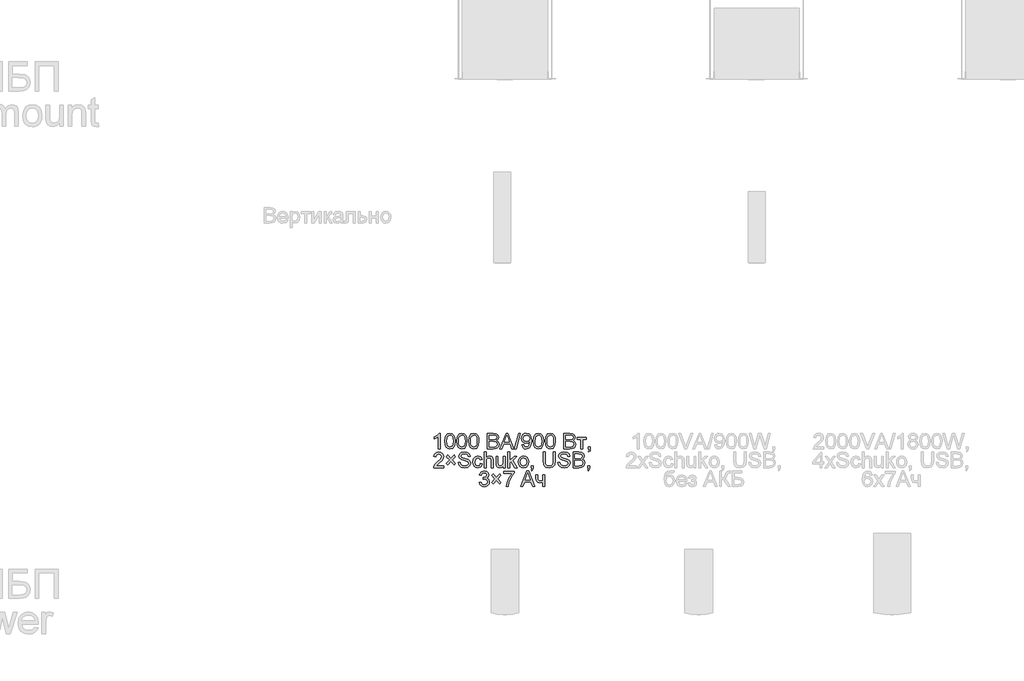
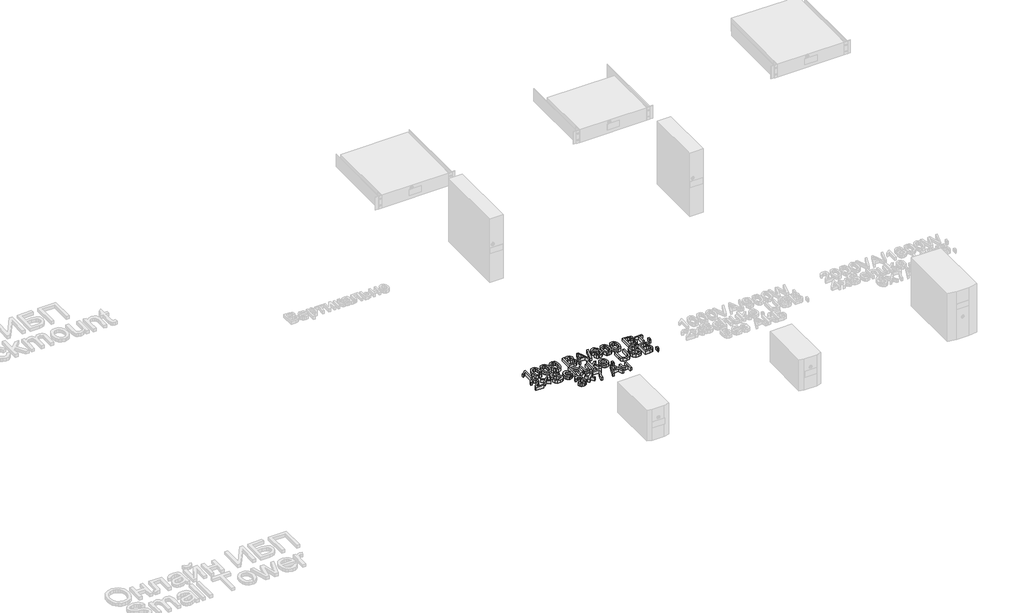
# One storey, part 55 of 74: 1 proxy.
"""IFC4 building model written with IfcOpenShell, lengths in millimetres."""

from ifc_helpers import new_model, si_unit, origin, origin_with_axes, place, context, project, spatial, polyline, outline, extrude, element, save

model = new_model("IFC4")

# Units and contexts
model_context = context("Model", 3, world=origin())
ifc_project = project(units=[si_unit("LENGTHUNIT", "METRE", prefix="MILLI")], contexts=[model_context])

# Site, building, storey
site = spatial("IfcSite", under=ifc_project)
building = spatial("IfcBuilding", under=site)
storey = spatial("IfcBuildingStorey", under=building, Name="Этаж 01", Elevation=0.0)

# Proxy
placement = place(None, origin())
element("IfcBuildingElementProxy", 1, Name="80 мм Arial", ObjectType="80 мм Arial", at=placement, inside=storey, context=model_context, shape_type="SweptSolid", body=[
    extrude(outline(polyline([(1017.7661692, -737.6348585), (1007.7205382, -737.6348585), (1007.7205382, -675.0066276), (998.2046572, -681.7854665), (987.6292761, -686.857333), (987.6292761, -677.3610724), (1002.3543661, -667.9629137), (1011.2914461, -657.2698104), (1017.7661692, -657.2698104), (1017.7661692, -737.6348585)])), origin_with_axes(), (0.0, 0.0, 1.0), 20.0),
    extrude(outline(polyline([(1041.6245428, -698.0998067), (1044.577409, -674.9771971), (1053.3477158, -661.6451535), (1067.9943243, -657.2698104), (1079.7273074, -659.8596996), (1087.8305214, -667.3252516), (1092.539411, -679.2151976), (1094.3641057, -698.0998067), (1091.4406701, -721.1243145), (1082.6997939, -734.4857886), (1067.9943243, -738.8905623), (1057.5562858, -736.977576), (1049.6296551, -731.2386168), (1043.6258209, -717.6466034), (1041.6245428, -698.0998067)]), holes=[polyline([(1051.6701739, -698.0801864), (1052.8473962, -713.8819443), (1056.3790634, -723.0274907), (1067.9943243, -728.8449313), (1079.6095851, -723.0078703), (1083.1412523, -713.8574189), (1084.3184747, -698.0801864), (1083.180493, -682.6340476), (1079.7665481, -673.4173774), (1074.5180983, -668.8409254), (1067.876602, -667.3154414), (1056.5360264, -672.6914236), (1052.886637, -682.4819898), (1051.6701739, -698.0801864)])]), origin_with_axes(), (0.0, 0.0, 1.0), 20.0),
    extrude(outline(polyline([(1103.1540328, -698.0998067), (1106.106899, -674.9771971), (1114.8772057, -661.6451535), (1129.5238142, -657.2698104), (1141.2567973, -659.8596996), (1149.3600114, -667.3252516), (1154.0689009, -679.2151976), (1155.8935956, -698.0998067), (1152.97016, -721.1243145), (1144.2292838, -734.4857886), (1129.5238142, -738.8905623), (1119.0857757, -736.977576), (1111.159145, -731.2386168), (1105.1553109, -717.6466034), (1103.1540328, -698.0998067)]), holes=[polyline([(1113.1996638, -698.0801864), (1114.3768862, -713.8819443), (1117.9085534, -723.0274907), (1129.5238142, -728.8449313), (1141.1390751, -723.0078703), (1144.6707422, -713.8574189), (1145.8479646, -698.0801864), (1144.709983, -682.6340476), (1141.2960381, -673.4173774), (1136.0475883, -668.8409254), (1129.406092, -667.3154414), (1118.0655163, -672.6914236), (1114.4161269, -682.4819898), (1113.1996638, -698.0801864)])]), origin_with_axes(), (0.0, 0.0, 1.0), 20.0),
    extrude(outline(polyline([(1164.6835228, -698.0998067), (1167.6363889, -674.9771971), (1176.4066957, -661.6451535), (1191.0533042, -657.2698104), (1202.7862873, -659.8596996), (1210.8895014, -667.3252516), (1215.5983909, -679.2151976), (1217.4230856, -698.0998067), (1214.49965, -721.1243145), (1205.7587738, -734.4857886), (1191.0533042, -738.8905623), (1180.6152657, -736.977576), (1172.688635, -731.2386168), (1166.6848008, -717.6466034), (1164.6835228, -698.0998067)]), holes=[polyline([(1174.7291538, -698.0801864), (1175.9063762, -713.8819443), (1179.4380433, -723.0274907), (1191.0533042, -728.8449313), (1202.668565, -723.0078703), (1206.2002322, -713.8574189), (1207.3774546, -698.0801864), (1206.2394729, -682.6340476), (1202.825528, -673.4173774), (1197.5770782, -668.8409254), (1190.9355819, -667.3154414), (1179.5950063, -672.6914236), (1175.9456169, -682.4819898), (1174.7291538, -698.0801864)])]), origin_with_axes(), (0.0, 0.0, 1.0), 20.0),
    extrude(outline(polyline([(1261.3727213, -737.6348585), (1261.3727213, -657.2698104), (1292.0393644, -657.2698104), (1307.05876, -659.6340653), (1315.9271686, -666.9034135), (1319.1350996, -677.184489), (1316.4372983, -686.5728375), (1308.2850333, -693.6852228), (1318.1835115, -701.1802053), (1321.6465074, -713.6783829), (1319.2822524, -724.4793983), (1313.4255711, -732.1705846), (1304.6846949, -736.2516222), (1291.8039199, -737.6348585), (1261.3727213, -737.6348585)]), holes=[polyline([(1271.4183523, -689.9181112), (1289.7634011, -689.9181112), (1300.4761248, -689.0548147), (1306.9214174, -685.336754), (1309.0894686, -678.7933596), (1307.0685702, -672.240155), (1301.2805601, -668.3651313), (1288.3703546, -667.3154414), (1271.4183523, -667.3154414), (1271.4183523, -689.9181112)]), polyline([(1271.4183523, -727.5892275), (1292.019744, -727.5892275), (1299.4754858, -727.19682), (1305.7834357, -725.0091484), (1309.9625752, -720.5455135), (1311.6008764, -713.7764848), (1309.6780798, -705.9675763), (1303.4486114, -701.3077377), (1291.0387254, -699.9637422), (1271.4183523, -699.9637422), (1271.4183523, -727.5892275)])]), origin_with_axes(), (0.0, 0.0, 1.0), 20.0),
    extrude(outline(polyline([(1326.1003321, -737.6348585), (1358.179642, -657.2698104), (1366.7341247, -657.2698104), (1398.8134347, -737.6348585), (1388.1988129, -737.6348585), (1378.9968579, -712.5207809), (1345.8972885, -712.5207809), (1336.7149539, -737.6348585), (1326.1003321, -737.6348585)]), holes=[polyline([(1349.5859186, -702.4751499), (1375.3278481, -702.4751499), (1368.0879305, -682.7174342), (1362.4568834, -667.3154414), (1357.4536882, -680.9908414), (1349.5859186, -702.4751499)])]), origin_with_axes(), (0.0, 0.0, 1.0), 20.0),
    extrude(outline(polyline([(1400.7558516, -737.6348585), (1423.3585214, -657.2698104), (1432.4231338, -657.2698104), (1409.820464, -737.6348585), (1400.7558516, -737.6348585)])), origin_with_axes(), (0.0, 0.0, 1.0), 20.0),
    extrude(outline(polyline([(1438.4269679, -717.5435964), (1448.4725989, -716.2878926), (1452.9852848, -725.8724448), (1461.5397674, -728.8449313), (1469.6724121, -726.931945), (1475.1857369, -721.8208378), (1478.4721494, -713.0897718), (1479.924057, -701.4352701), (1479.8651959, -699.4732328), (1471.8306531, -707.0859376), (1460.8138136, -710.0093732), (1451.6535519, -708.2239192), (1444.0285844, -702.8675574), (1438.8855941, -694.592665), (1437.1712641, -684.0516196), (1438.9689807, -673.1623125), (1444.3621308, -664.6274503), (1452.4628923, -659.1092203), (1462.3834435, -657.2698104), (1476.6965056, -661.4685702), (1486.5459329, -673.4369978), (1489.9108269, -695.9219453), (1486.5557431, -720.3198792), (1476.5787834, -734.1424321), (1461.0688785, -738.8905623), (1452.4800601, -737.4901582), (1445.6276448, -733.2889458), (1438.4269679, -717.5435964)]), holes=[polyline([(1479.8651959, -683.8161751), (1475.5290934, -671.7692661), (1464.0119344, -667.3154414), (1451.9257846, -672.1126226), (1447.2168951, -684.5421289), (1451.6707198, -695.6766906), (1463.7372492, -699.9637422), (1475.3230795, -695.6766906), (1479.8651959, -683.8161751)])]), origin_with_axes(), (0.0, 0.0, 1.0), 20.0),
    extrude(outline(polyline([(1498.700754, -698.0998067), (1501.6536202, -674.9771971), (1510.4239269, -661.6451535), (1525.0705354, -657.2698104), (1536.8035185, -659.8596996), (1544.9067326, -667.3252516), (1549.6156222, -679.2151976), (1551.4403168, -698.0998067), (1548.5168813, -721.1243145), (1539.7760051, -734.4857886), (1525.0705354, -738.8905623), (1514.632497, -736.977576), (1506.7058662, -731.2386168), (1500.7020321, -717.6466034), (1498.700754, -698.0998067)]), holes=[polyline([(1508.746385, -698.0801864), (1509.9236074, -713.8819443), (1513.4552746, -723.0274907), (1525.0705354, -728.8449313), (1536.6857963, -723.0078703), (1540.2174634, -713.8574189), (1541.3946858, -698.0801864), (1540.2567042, -682.6340476), (1536.8427593, -673.4173774), (1531.5943095, -668.8409254), (1524.9528132, -667.3154414), (1513.6122376, -672.6914236), (1509.9628482, -682.4819898), (1508.746385, -698.0801864)])]), origin_with_axes(), (0.0, 0.0, 1.0), 20.0),
    extrude(outline(polyline([(1560.230244, -698.0998067), (1563.1831101, -674.9771971), (1571.9534169, -661.6451535), (1586.6000254, -657.2698104), (1598.3330085, -659.8596996), (1606.4362226, -667.3252516), (1611.1451121, -679.2151976), (1612.9698068, -698.0998067), (1610.0463712, -721.1243145), (1601.305495, -734.4857886), (1586.6000254, -738.8905623), (1576.1619869, -736.977576), (1568.2353562, -731.2386168), (1562.231522, -717.6466034), (1560.230244, -698.0998067)]), holes=[polyline([(1570.275875, -698.0801864), (1571.4530974, -713.8819443), (1574.9847645, -723.0274907), (1586.6000254, -728.8449313), (1598.2152863, -723.0078703), (1601.7469534, -713.8574189), (1602.9241758, -698.0801864), (1601.7861942, -682.6340476), (1598.3722492, -673.4173774), (1593.1237994, -668.8409254), (1586.4823032, -667.3154414), (1575.1417275, -672.6914236), (1571.4923381, -682.4819898), (1570.275875, -698.0801864)])]), origin_with_axes(), (0.0, 0.0, 1.0), 20.0),
    extrude(outline(polyline([(1656.9194425, -737.6348585), (1656.9194425, -657.2698104), (1687.5860856, -657.2698104), (1702.6054812, -659.6340653), (1711.4738898, -666.9034135), (1714.6818208, -677.184489), (1711.9840195, -686.5728375), (1703.8317545, -693.6852228), (1713.7302327, -701.1802053), (1717.1932286, -713.6783829), (1714.8289736, -724.4793983), (1708.9722923, -732.1705846), (1700.2314161, -736.2516222), (1687.3506411, -737.6348585), (1656.9194425, -737.6348585)]), holes=[polyline([(1666.9650735, -689.9181112), (1685.3101223, -689.9181112), (1696.022846, -689.0548147), (1702.4681386, -685.336754), (1704.6361898, -678.7933596), (1702.6152914, -672.240155), (1696.8272813, -668.3651313), (1683.9170759, -667.3154414), (1666.9650735, -667.3154414), (1666.9650735, -689.9181112)]), polyline([(1666.9650735, -727.5892275), (1687.5664652, -727.5892275), (1695.022207, -727.19682), (1701.330157, -725.0091484), (1705.5092964, -720.5455135), (1707.1475976, -713.7764848), (1705.224801, -705.9675763), (1698.9953326, -701.3077377), (1686.5854466, -699.9637422), (1666.9650735, -699.9637422), (1666.9650735, -727.5892275)])]), origin_with_axes(), (0.0, 0.0, 1.0), 20.0),
    extrude(outline(polyline([(1724.7274519, -678.6167763), (1772.4441992, -678.6167763), (1772.4441992, -688.6624073), (1753.608641, -688.6624073), (1753.608641, -737.6348585), (1743.56301, -737.6348585), (1743.56301, -688.6624073), (1724.7274519, -688.6624073), (1724.7274519, -678.6167763)])), origin_with_axes(), (0.0, 0.0, 1.0), 20.0),
    extrude(outline(polyline([(1783.7455341, -737.6348585), (1783.7455341, -727.5892275), (1793.7911651, -727.5892275), (1793.7911651, -737.6348585), (1791.9860908, -747.9061238), (1786.2569418, -753.9590089), (1783.7455341, -750.1918972), (1787.4341642, -745.8557948), (1788.7487292, -737.6348585), (1783.7455341, -737.6348585)])), origin_with_axes(), (0.0, 0.0, 1.0), 20.0),
    extrude(outline(polyline([(1035.9738754, -825.1690817), (1035.9738754, -835.2147127), (983.2343126, -835.2147127), (984.3134331, -828.2887211), (990.4153691, -817.6250483), (1002.9920283, -805.9803569), (1020.3364381, -789.2441786), (1024.6725405, -777.8643622), (1020.5816927, -768.6525971), (1009.8983996, -764.8952956), (998.7638379, -768.5643054), (994.5356475, -778.7080383), (984.4900164, -777.4523344), (986.9253952, -767.7353446), (992.1910129, -760.6376747), (1000.0121841, -756.2966671), (1010.1142237, -754.8496646), (1020.2898397, -756.4585352), (1028.0962956, -761.285147), (1033.0627025, -768.4956341), (1034.7181715, -777.2561307), (1032.9327176, -786.7818218), (1026.9975547, -796.6312491), (1012.6060111, -810.3949408), (1001.0496113, -820.0579745), (996.5173051, -825.1690817), (1035.9738754, -825.1690817)])), origin_with_axes(), (0.0, 0.0, 1.0), 20.0),
    extrude(outline(polyline([(1049.8650995, -812.612043), (1065.8164628, -795.6600406), (1049.8650995, -778.7080383), (1056.0651374, -769.9181112), (1073.0956213, -787.9296136), (1090.0476236, -769.9181112), (1096.2476615, -778.7080383), (1080.2962982, -795.6600406), (1096.2476615, -812.612043), (1090.0476236, -821.4019701), (1073.0956213, -803.3904676), (1056.0651374, -821.4019701), (1049.8650995, -812.612043)])), origin_with_axes(), (0.0, 0.0, 1.0), 20.0),
    extrude(outline(polyline([(1111.316108, -807.5892275), (1121.361739, -807.5892275), (1124.5991006, -817.6446687), (1132.5061109, -824.0016695), (1144.55302, -826.4247856), (1155.0499196, -824.5902807), (1161.8287585, -819.5478448), (1164.0556708, -812.8082467), (1162.3879391, -806.5395375), (1155.5600493, -801.9778008), (1140.9330612, -798.1420178), (1125.1877118, -793.1878736), (1116.6430393, -785.7125115), (1113.8275158, -775.7257416), (1117.310132, -764.3557354), (1127.4832954, -756.3310028), (1142.3751586, -753.5939608), (1158.2676608, -756.4585352), (1168.8626622, -764.8756753), (1172.845598, -777.4523344), (1162.799967, -777.4523344), (1157.1100588, -767.1320182), (1142.767566, -763.6395918), (1128.3858326, -767.0927774), (1123.8731468, -775.431436), (1127.0712676, -782.3966684), (1143.4738995, -788.0080951), (1161.2499575, -793.050531), (1170.9718523, -801.1929858), (1174.1013018, -812.5531818), (1170.5009634, -824.5706604), (1160.1414064, -833.3409671), (1144.9454275, -836.4704166), (1127.0025963, -833.0957125), (1115.6522105, -822.9323592), (1111.316108, -807.5892275)])), origin_with_axes(), (0.0, 0.0, 1.0), 20.0),
    extrude(outline(polyline([(1225.5851608, -813.8677468), (1235.6307918, -815.1234507), (1232.8299836, -824.0580781), (1227.5668185, -830.809939), (1211.6350755, -836.4704166), (1200.9493299, -834.4961166), (1192.5935035, -828.5732165), (1187.2003534, -818.9616862), (1185.4026367, -805.9214957), (1188.4732251, -789.2343684), (1197.8321431, -778.5118346), (1211.4977329, -774.9409267), (1226.7721934, -779.8460199), (1234.3750879, -793.7764848), (1224.3294569, -795.0321887), (1219.6696183, -787.5077756), (1211.5762144, -784.9865577), (1199.931523, -789.9505121), (1195.4482678, -805.6468105), (1199.8334211, -821.4902618), (1211.3015292, -826.4247856), (1220.7683592, -823.344387), (1225.5851608, -813.8677468)])), origin_with_axes(), (0.0, 0.0, 1.0), 20.0),
    extrude(outline(polyline([(1244.420719, -835.2147127), (1244.420719, -754.8496646), (1254.46635, -754.8496646), (1254.46635, -784.3979465), (1262.2997839, -777.3051816), (1271.9481024, -774.9409267), (1283.2298169, -777.5210057), (1290.0773271, -784.6530113), (1292.1374663, -797.8575224), (1292.1374663, -835.2147127), (1282.0918353, -835.2147127), (1282.0918353, -798.8974022), (1278.8937144, -788.3024007), (1269.8291021, -784.9865577), (1261.5983556, -787.2232802), (1256.1046511, -793.2859755), (1254.46635, -803.8613566), (1254.46635, -835.2147127), (1244.420719, -835.2147127)])), origin_with_axes(), (0.0, 0.0, 1.0), 20.0),
    extrude(outline(polyline([(1343.6213252, -835.2147127), (1343.6213252, -825.0709799), (1335.7535556, -833.6205574), (1325.4921005, -836.4704166), (1316.0448909, -834.4691386), (1309.530927, -829.4463231), (1306.5388201, -822.0494424), (1305.9502089, -812.7101448), (1305.9502089, -776.1966305), (1315.9958399, -776.1966305), (1315.9958399, -807.9816349), (1316.6040715, -818.2234697), (1320.577197, -824.237114), (1328.0623694, -826.4247856), (1336.4500789, -824.1880631), (1341.9928343, -818.0959372), (1343.6213252, -806.9025144), (1343.6213252, -776.1966305), (1353.6669562, -776.1966305), (1353.6669562, -835.2147127), (1343.6213252, -835.2147127)])), origin_with_axes(), (0.0, 0.0, 1.0), 20.0),
    extrude(outline(polyline([(1367.4796989, -835.2147127), (1367.4796989, -754.8496646), (1377.5253299, -754.8496646), (1377.5253299, -798.0341058), (1400.0495182, -776.1966305), (1413.9407423, -776.1966305), (1391.1418688, -798.308791), (1415.1964462, -835.2147127), (1403.4634631, -835.2147127), (1383.9411919, -805.2936438), (1377.5253299, -811.5133021), (1377.5253299, -835.2147127), (1367.4796989, -835.2147127)])), origin_with_axes(), (0.0, 0.0, 1.0), 20.0),
    extrude(outline(polyline([(1421.4749656, -805.7056716), (1423.6479219, -791.4759961), (1430.1667909, -781.4745109), (1438.220954, -776.5743227), (1447.8643674, -774.9409267), (1458.4176755, -776.929942), (1466.8470783, -782.8969879), (1472.3726659, -792.3711756), (1474.2145284, -804.881616), (1470.9575465, -822.7557758), (1461.4710961, -832.8700782), (1447.8643674, -836.4704166), (1437.1835268, -834.4887589), (1428.7639342, -828.5437859), (1423.2972077, -818.870942), (1421.4749656, -805.7056716)]), holes=[polyline([(1431.5205966, -805.6860513), (1436.170625, -821.2548173), (1447.8643674, -826.4247856), (1459.518869, -821.2253867), (1464.1688974, -805.3721253), (1459.4894384, -790.156526), (1447.8643674, -784.9865577), (1436.170625, -790.1369056), (1431.5205966, -805.6860513)])]), origin_with_axes(), (0.0, 0.0, 1.0), 20.0),
    extrude(outline(polyline([(1488.0272711, -835.2147127), (1488.0272711, -825.1690817), (1498.0729021, -825.1690817), (1498.0729021, -835.2147127), (1496.2678278, -845.4859781), (1490.5386788, -851.5388631), (1488.0272711, -847.7717515), (1491.7159012, -843.4356491), (1493.0304662, -835.2147127), (1488.0272711, -835.2147127)])), origin_with_axes(), (0.0, 0.0, 1.0), 20.0),
    extrude(outline(polyline([(1602.2963239, -754.8496646), (1612.3419549, -754.8496646), (1612.3419549, -801.2126062), (1609.614723, -820.4307616), (1599.7849161, -832.0067817), (1581.1455617, -836.4704166), (1562.7907027, -832.5855828), (1552.607729, -821.3332988), (1549.556761, -801.2126062), (1549.556761, -754.8496646), (1559.602392, -754.8496646), (1559.602392, -800.8594395), (1561.5840497, -816.1731407), (1568.3923192, -823.7564149), (1580.2037838, -826.4247856), (1590.4210931, -825.1053155), (1597.2146472, -821.1469053), (1601.0259047, -813.4360986), (1602.2963239, -800.8594395), (1602.2963239, -754.8496646)])), origin_with_axes(), (0.0, 0.0, 1.0), 20.0),
    extrude(outline(polyline([(1626.1546975, -807.5892275), (1636.2003285, -807.5892275), (1639.4376901, -817.6446687), (1647.3447004, -824.0016695), (1659.3916095, -826.4247856), (1669.8885091, -824.5902807), (1676.667348, -819.5478448), (1678.8942603, -812.8082467), (1677.2265286, -806.5395375), (1670.3986388, -801.9778008), (1655.7716507, -798.1420178), (1640.0263013, -793.1878736), (1631.4816288, -785.7125115), (1628.6661053, -775.7257416), (1632.1487215, -764.3557354), (1642.3218849, -756.3310028), (1657.2137481, -753.5939608), (1673.1062503, -756.4585352), (1683.7012518, -764.8756753), (1687.6841875, -777.4523344), (1677.6385565, -777.4523344), (1671.9486483, -767.1320182), (1657.6061556, -763.6395918), (1643.2244221, -767.0927774), (1638.7117363, -775.431436), (1641.9098571, -782.3966684), (1658.312489, -788.0080951), (1676.088547, -793.050531), (1685.8104419, -801.1929858), (1688.9398914, -812.5531818), (1685.3395529, -824.5706604), (1674.9799959, -833.3409671), (1659.784017, -836.4704166), (1641.8411858, -833.0957125), (1630.4908, -822.9323592), (1626.1546975, -807.5892275)])), origin_with_axes(), (0.0, 0.0, 1.0), 20.0),
    extrude(outline(polyline([(1704.0083379, -835.2147127), (1704.0083379, -754.8496646), (1734.674981, -754.8496646), (1749.6943766, -757.2139196), (1758.5627852, -764.4832678), (1761.7707162, -774.7643433), (1759.0729149, -784.1526918), (1750.9206499, -791.2650771), (1760.8191281, -798.7600596), (1764.282124, -811.2582372), (1761.917869, -822.0592526), (1756.0611877, -829.7504388), (1747.3203115, -833.8314764), (1734.4395365, -835.2147127), (1704.0083379, -835.2147127)]), holes=[polyline([(1714.0539689, -787.4979654), (1732.3990177, -787.4979654), (1743.1117414, -786.634669), (1749.557034, -782.9166083), (1751.7250852, -776.3732139), (1749.7041868, -769.8200093), (1743.9161767, -765.9449856), (1731.0059712, -764.8952956), (1714.0539689, -764.8952956), (1714.0539689, -787.4979654)]), polyline([(1714.0539689, -825.1690817), (1734.6553606, -825.1690817), (1742.1111024, -824.7766743), (1748.4190523, -822.5890027), (1752.5981918, -818.1253678), (1754.236493, -811.3563391), (1752.3136964, -803.5474306), (1746.0842279, -798.887592), (1733.674342, -797.5435964), (1714.0539689, -797.5435964), (1714.0539689, -825.1690817)])]), origin_with_axes(), (0.0, 0.0, 1.0), 20.0),
    extrude(outline(polyline([(1779.3505705, -835.2147127), (1779.3505705, -825.1690817), (1789.3962015, -825.1690817), (1789.3962015, -835.2147127), (1787.5911272, -845.4859781), (1781.8619783, -851.5388631), (1779.3505705, -847.7717515), (1783.0392006, -843.4356491), (1784.3537656, -835.2147127), (1779.3505705, -835.2147127)])), origin_with_axes(), (0.0, 0.0, 1.0), 20.0),
    extrude(outline(polyline([(1219.3066414, -911.4476011), (1229.3522724, -910.1918972), (1234.8950278, -920.7672783), (1245.264395, -924.0046399), (1257.468267, -919.5508152), (1262.0005732, -908.5241655), (1257.5075078, -898.135178), (1246.0884507, -894.0247098), (1239.0447367, -895.1234507), (1240.163098, -885.0778197), (1241.7719686, -885.1955419), (1253.1714053, -882.3113471), (1258.2334616, -873.4429385), (1254.5644518, -865.5849791), (1245.107432, -862.4751499), (1235.5326899, -865.6144096), (1230.6079763, -875.0321887), (1220.5623453, -873.7764848), (1228.7832816, -858.0213252), (1244.7542653, -852.4295189), (1256.8698457, -855.1861813), (1265.3458468, -862.7204046), (1268.2790926, -872.8543273), (1265.4929996, -882.1151434), (1257.2524429, -888.7664498), (1268.2006111, -895.6335804), (1272.0462042, -908.7007489), (1270.1234077, -918.4913151), (1264.355018, -926.6730106), (1255.6484774, -932.2059558), (1244.9112283, -934.0502709), (1235.1991436, -932.475736), (1227.2921333, -927.7521311), (1221.7935237, -920.5269288), (1219.3066414, -911.4476011)])), origin_with_axes(), (0.0, 0.0, 1.0), 20.0),
    extrude(outline(polyline([(1284.6817245, -910.1918972), (1300.6330878, -893.2398949), (1284.6817245, -876.2878926), (1290.8817624, -867.4979654), (1307.9122462, -885.5094679), (1324.8642486, -867.4979654), (1331.0642865, -876.2878926), (1315.1129231, -893.2398949), (1331.0642865, -910.1918972), (1324.8642486, -918.9818244), (1307.9122462, -900.9703219), (1290.8817624, -918.9818244), (1284.6817245, -910.1918972)])), origin_with_axes(), (0.0, 0.0, 1.0), 20.0),
    extrude(outline(polyline([(1346.132733, -863.7308538), (1346.132733, -853.6852228), (1398.8722958, -853.6852228), (1398.8722958, -861.8080572), (1383.9117613, -883.4198982), (1372.4632736, -910.9570918), (1368.7354028, -932.794567), (1358.6897717, -932.794567), (1362.6825177, -910.1330361), (1373.640496, -884.5186391), (1388.8266648, -863.7308538), (1346.132733, -863.7308538)])), origin_with_axes(), (0.0, 0.0, 1.0), 20.0),
    extrude(outline(polyline([(1433.4630135, -932.794567), (1465.5423235, -852.4295189), (1474.0968062, -852.4295189), (1506.1761162, -932.794567), (1495.5614943, -932.794567), (1486.3595394, -907.6804895), (1453.25997, -907.6804895), (1444.0776354, -932.794567), (1433.4630135, -932.794567)]), holes=[polyline([(1456.9486001, -897.6348585), (1482.6905296, -897.6348585), (1475.4506119, -877.8771428), (1469.8195649, -862.4751499), (1464.8163697, -876.15055), (1456.9486001, -897.6348585)])]), origin_with_axes(), (0.0, 0.0, 1.0), 20.0),
    extrude(outline(polyline([(1511.8856447, -873.7764848), (1521.9312757, -873.7764848), (1521.9312757, -885.0974401), (1522.7455212, -895.7120619), (1526.6597857, -901.4608312), (1534.4294534, -903.9133779), (1548.3010572, -900.87222), (1548.3010572, -873.7764848), (1558.3466882, -873.7764848), (1558.3466882, -932.794567), (1548.3010572, -932.794567), (1548.3010572, -910.5058232), (1531.7414623, -913.9590089), (1520.3518357, -910.3586704), (1513.6514783, -901.5393127), (1511.8856447, -890.0613945), (1511.8856447, -873.7764848)])), origin_with_axes(), (0.0, 0.0, 1.0), 20.0),
])

save(model, "model.ifc")
